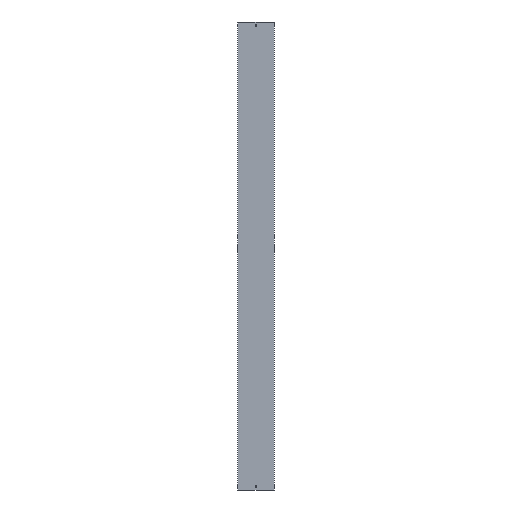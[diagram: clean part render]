
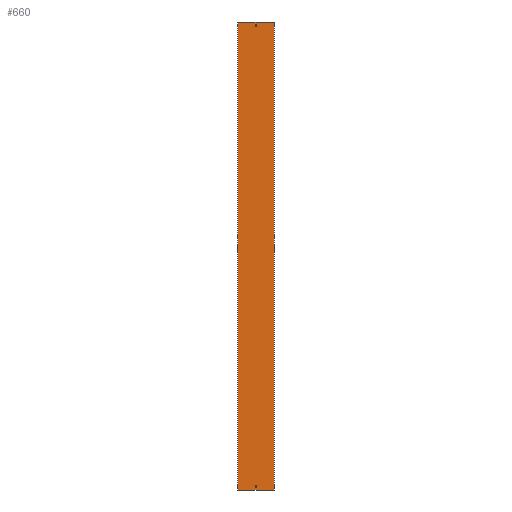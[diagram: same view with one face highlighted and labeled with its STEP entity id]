
A CAD part, front view. The second image highlights one B-rep face of the part: STEP entity #660.
In plain terms, the highlighted planar face has unit normal (0, -1, 0).
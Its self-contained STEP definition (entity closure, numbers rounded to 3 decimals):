
#22 = EDGE_CURVE ( 'NONE', #1072, #769, #186, .T. ) ;
#24 = DIRECTION ( 'NONE',  ( 1., 0., 0. ) ) ;
#41 = DIRECTION ( 'NONE',  ( 0., 1., 0. ) ) ;
#48 = CARTESIAN_POINT ( 'NONE',  ( 3.25, 0., 988. ) ) ;
#59 = LINE ( 'NONE', #682, #169 ) ;
#66 = VERTEX_POINT ( 'NONE', #1125 ) ;
#100 = EDGE_CURVE ( 'NONE', #66, #406, #783, .T. ) ;
#144 = ORIENTED_EDGE ( 'NONE', *, *, #639, .T. ) ;
#148 = CARTESIAN_POINT ( 'NONE',  ( 3.25, 0., 979. ) ) ;
#149 = ORIENTED_EDGE ( 'NONE', *, *, #1052, .T. ) ;
#152 = AXIS2_PLACEMENT_3D ( 'NONE', #205, #41, #398 ) ;
#162 = ORIENTED_EDGE ( 'NONE', *, *, #22, .F. ) ;
#165 = DIRECTION ( 'NONE',  ( 0., 0., 1. ) ) ;
#169 = VECTOR ( 'NONE', #857, 1000. ) ;
#174 = DIRECTION ( 'NONE',  ( 0., 0., 1. ) ) ;
#177 = EDGE_CURVE ( 'NONE', #799, #903, #750, .T. ) ;
#182 = VERTEX_POINT ( 'NONE', #843 ) ;
#186 = LINE ( 'NONE', #521, #998 ) ;
#205 = CARTESIAN_POINT ( 'NONE',  ( -77., 0., 1000. ) ) ;
#206 = DIRECTION ( 'NONE',  ( 0., 0., -1. ) ) ;
#229 = VECTOR ( 'NONE', #781, 1000. ) ;
#239 = EDGE_CURVE ( 'NONE', #723, #1072, #287, .T. ) ;
#253 = EDGE_CURVE ( 'NONE', #462, #723, #982, .T. ) ;
#259 = CARTESIAN_POINT ( 'NONE',  ( -3.25, 0., 988. ) ) ;
#265 = VECTOR ( 'NONE', #24, 1000. ) ;
#269 = CARTESIAN_POINT ( 'NONE',  ( -3.25, 0., -988. ) ) ;
#287 = LINE ( 'NONE', #638, #265 ) ;
#290 = EDGE_LOOP ( 'NONE', ( #628, #149, #728, #915 ) ) ;
#291 = FACE_BOUND ( 'NONE', #290, .T. ) ;
#305 = VECTOR ( 'NONE', #1093, 1000. ) ;
#317 = CARTESIAN_POINT ( 'NONE',  ( -77., 0., 1000. ) ) ;
#326 = ORIENTED_EDGE ( 'NONE', *, *, #253, .F. ) ;
#330 = EDGE_LOOP ( 'NONE', ( #144, #338, #1055, #974 ) ) ;
#334 = VECTOR ( 'NONE', #1073, 1000. ) ;
#338 = ORIENTED_EDGE ( 'NONE', *, *, #363, .F. ) ;
#347 = CARTESIAN_POINT ( 'NONE',  ( -3.25, 0., -988. ) ) ;
#363 = EDGE_CURVE ( 'NONE', #904, #182, #59, .T. ) ;
#369 = LINE ( 'NONE', #704, #490 ) ;
#384 = ORIENTED_EDGE ( 'NONE', *, *, #873, .F. ) ;
#398 = DIRECTION ( 'NONE',  ( -1., 0., 0. ) ) ;
#406 = VERTEX_POINT ( 'NONE', #694 ) ;
#441 = DIRECTION ( 'NONE',  ( 0., 0., -1. ) ) ;
#462 = VERTEX_POINT ( 'NONE', #259 ) ;
#463 = FACE_BOUND ( 'NONE', #718, .T. ) ;
#467 = EDGE_CURVE ( 'NONE', #1084, #66, #1062, .T. ) ;
#490 = VECTOR ( 'NONE', #627, 1000. ) ;
#491 = VECTOR ( 'NONE', #727, 1000. ) ;
#492 = CARTESIAN_POINT ( 'NONE',  ( -3.25, 0., -979. ) ) ;
#494 = CARTESIAN_POINT ( 'NONE',  ( -3.25, 0., 979. ) ) ;
#521 = CARTESIAN_POINT ( 'NONE',  ( 3.25, 0., 988. ) ) ;
#548 = LINE ( 'NONE', #640, #491 ) ;
#551 = LINE ( 'NONE', #730, #334 ) ;
#587 = CARTESIAN_POINT ( 'NONE',  ( 3.25, 0., -988. ) ) ;
#624 = VERTEX_POINT ( 'NONE', #656 ) ;
#627 = DIRECTION ( 'NONE',  ( -1., 0., 0. ) ) ;
#628 = ORIENTED_EDGE ( 'NONE', *, *, #100, .T. ) ;
#631 = CARTESIAN_POINT ( 'NONE',  ( 77., 0., 1000. ) ) ;
#638 = CARTESIAN_POINT ( 'NONE',  ( -3.25, 0., 979. ) ) ;
#639 = EDGE_CURVE ( 'NONE', #903, #182, #551, .T. ) ;
#640 = CARTESIAN_POINT ( 'NONE',  ( -77., 0., 1000. ) ) ;
#643 = PLANE ( 'NONE',  #152 ) ;
#650 = FACE_OUTER_BOUND ( 'NONE', #330, .T. ) ;
#656 = CARTESIAN_POINT ( 'NONE',  ( 3.25, 0., -979. ) ) ;
#660 = ADVANCED_FACE ( 'NONE', ( #650, #463, #291 ), #643, .F. ) ;
#667 = DIRECTION ( 'NONE',  ( 0., 0., -1. ) ) ;
#670 = VECTOR ( 'NONE', #667, 1000. ) ;
#682 = CARTESIAN_POINT ( 'NONE',  ( 77., 0., 1000. ) ) ;
#694 = CARTESIAN_POINT ( 'NONE',  ( -3.25, 0., -979. ) ) ;
#704 = CARTESIAN_POINT ( 'NONE',  ( -3.25, 0., 988. ) ) ;
#718 = EDGE_LOOP ( 'NONE', ( #893, #326, #384, #162 ) ) ;
#723 = VERTEX_POINT ( 'NONE', #494 ) ;
#727 = DIRECTION ( 'NONE',  ( 1., 0., 0. ) ) ;
#728 = ORIENTED_EDGE ( 'NONE', *, *, #902, .T. ) ;
#730 = CARTESIAN_POINT ( 'NONE',  ( -77., 0., -1000. ) ) ;
#746 = LINE ( 'NONE', #492, #305 ) ;
#750 = LINE ( 'NONE', #317, #670 ) ;
#769 = VERTEX_POINT ( 'NONE', #48 ) ;
#770 = VECTOR ( 'NONE', #174, 1000. ) ;
#781 = DIRECTION ( 'NONE',  ( -1., 0., 0. ) ) ;
#783 = LINE ( 'NONE', #269, #770 ) ;
#799 = VERTEX_POINT ( 'NONE', #841 ) ;
#814 = VECTOR ( 'NONE', #206, 1000. ) ;
#841 = CARTESIAN_POINT ( 'NONE',  ( -77., 0., 1000. ) ) ;
#843 = CARTESIAN_POINT ( 'NONE',  ( 77., 0., -1000. ) ) ;
#857 = DIRECTION ( 'NONE',  ( 0., 0., -1. ) ) ;
#870 = VECTOR ( 'NONE', #441, 1000. ) ;
#873 = EDGE_CURVE ( 'NONE', #769, #462, #369, .T. ) ;
#875 = EDGE_CURVE ( 'NONE', #799, #904, #548, .T. ) ;
#879 = CARTESIAN_POINT ( 'NONE',  ( -77., 0., -1000. ) ) ;
#893 = ORIENTED_EDGE ( 'NONE', *, *, #239, .F. ) ;
#902 = EDGE_CURVE ( 'NONE', #624, #1084, #973, .T. ) ;
#903 = VERTEX_POINT ( 'NONE', #879 ) ;
#904 = VERTEX_POINT ( 'NONE', #631 ) ;
#915 = ORIENTED_EDGE ( 'NONE', *, *, #467, .T. ) ;
#973 = LINE ( 'NONE', #985, #870 ) ;
#974 = ORIENTED_EDGE ( 'NONE', *, *, #177, .T. ) ;
#982 = LINE ( 'NONE', #997, #814 ) ;
#985 = CARTESIAN_POINT ( 'NONE',  ( 3.25, 0., -988. ) ) ;
#997 = CARTESIAN_POINT ( 'NONE',  ( -3.25, 0., 988. ) ) ;
#998 = VECTOR ( 'NONE', #165, 1000. ) ;
#1052 = EDGE_CURVE ( 'NONE', #406, #624, #746, .T. ) ;
#1055 = ORIENTED_EDGE ( 'NONE', *, *, #875, .F. ) ;
#1062 = LINE ( 'NONE', #347, #229 ) ;
#1072 = VERTEX_POINT ( 'NONE', #148 ) ;
#1073 = DIRECTION ( 'NONE',  ( 1., 0., 0. ) ) ;
#1084 = VERTEX_POINT ( 'NONE', #587 ) ;
#1093 = DIRECTION ( 'NONE',  ( 1., 0., 0. ) ) ;
#1125 = CARTESIAN_POINT ( 'NONE',  ( -3.25, 0., -988. ) ) ;
